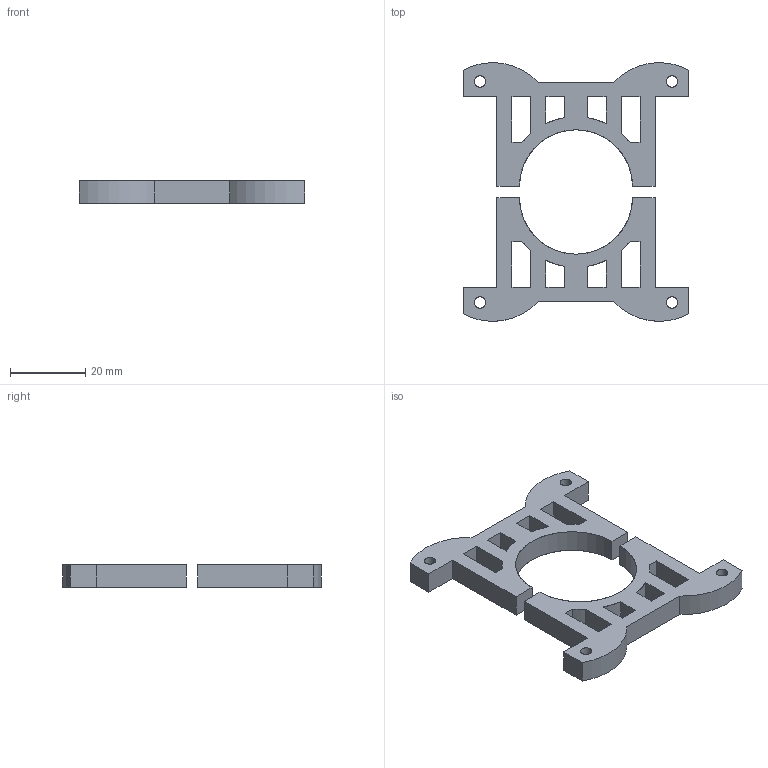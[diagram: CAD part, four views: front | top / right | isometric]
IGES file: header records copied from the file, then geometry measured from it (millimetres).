
Start section: SolidWorks IGES FILE using analytic representation for surfaces
Global section: file name: C:\Documents and Settings\MYKEUL\Bureau\FABRICATION MAQUETTES FINAL\MAQUETTE N°3 SUSPENDU\FICHIERS FAB ASSEMBLAGE\FICHIERS IGS\2 arches.IGS; native system: SolidWorks 2001 by SolidWorks Corporation; preprocessor: Version 5.2; author: MYKEUL; date: 081031.170933; units: millimetre
Bounding box: 60 x 68.74 x 6 mm (x, y, z)
Surface area: 7361.7 mm2 (no closed solid volume)
Topology: 0 solids, 0 shells, 76 faces, 868 edges, 868 vertices
Faces by surface type: bspline 54, revolution 22
